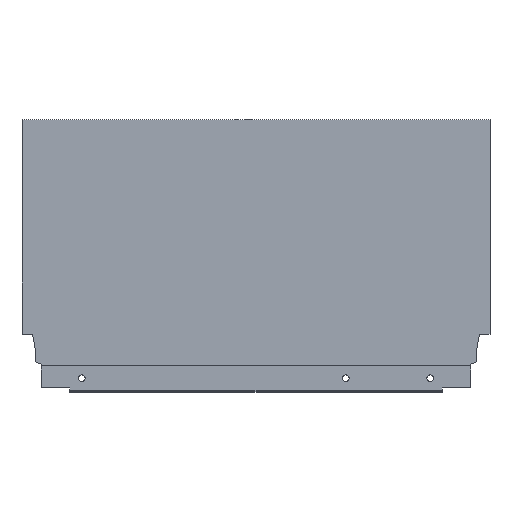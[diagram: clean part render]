
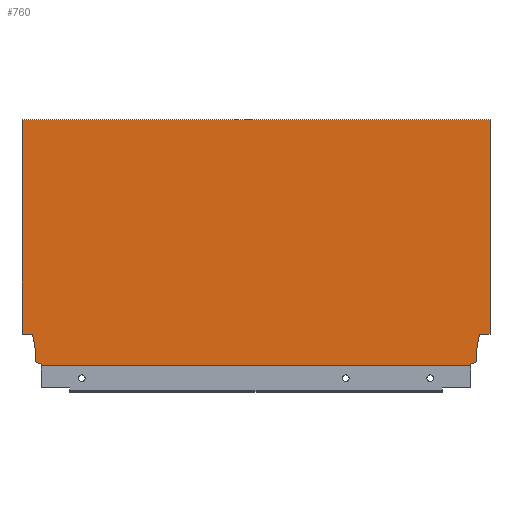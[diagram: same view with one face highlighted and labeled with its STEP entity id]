
A CAD part, top view. The second image highlights one B-rep face of the part: STEP entity #760.
In plain terms, the highlighted planar face has unit normal (0, 0, 1).
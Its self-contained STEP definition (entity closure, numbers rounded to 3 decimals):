
#2 = EDGE_CURVE ( 'NONE', #585, #961, #1470, .T. ) ;
#4 = EDGE_CURVE ( 'NONE', #934, #967, #467, .T. ) ;
#5 = EDGE_CURVE ( 'NONE', #942, #930, #1472, .T. ) ;
#100 = EDGE_CURVE ( 'NONE', #967, #952, #1218, .T. ) ;
#102 = EDGE_CURVE ( 'NONE', #938, #922, #1222, .T. ) ;
#107 = EDGE_CURVE ( 'NONE', #930, #934, #1207, .T. ) ;
#109 = EDGE_CURVE ( 'NONE', #922, #986, #1234, .T. ) ;
#111 = EDGE_CURVE ( 'NONE', #925, #938, #1238, .T. ) ;
#114 = EDGE_CURVE ( 'NONE', #933, #585, #1244, .T. ) ;
#117 = EDGE_CURVE ( 'NONE', #952, #933, #1230, .T. ) ;
#126 = EDGE_CURVE ( 'NONE', #957, #932, #1264, .T. ) ;
#133 = EDGE_CURVE ( 'NONE', #925, #961, #1262, .T. ) ;
#168 = AXIS2_PLACEMENT_3D ( 'NONE', #218, #210, #209 ) ;
#175 = EDGE_CURVE ( 'NONE', #986, #957, #1273, .T. ) ;
#180 = EDGE_CURVE ( 'NONE', #942, #932, #1279, .T. ) ;
#209 = DIRECTION ( 'NONE',  ( 1., 0., 0. ) ) ;
#210 = DIRECTION ( 'NONE',  ( 0., 0., 1. ) ) ;
#218 = CARTESIAN_POINT ( 'NONE',  ( -313., 0., 7.5 ) ) ;
#221 = PLANE ( 'NONE',  #168 ) ;
#425 = ORIENTED_EDGE ( 'NONE', *, *, #107, .F. ) ;
#426 = ORIENTED_EDGE ( 'NONE', *, *, #5, .F. ) ;
#429 = ORIENTED_EDGE ( 'NONE', *, *, #126, .F. ) ;
#431 = ORIENTED_EDGE ( 'NONE', *, *, #114, .F. ) ;
#435 = ORIENTED_EDGE ( 'NONE', *, *, #133, .T. ) ;
#436 = ORIENTED_EDGE ( 'NONE', *, *, #2, .F. ) ;
#450 = ORIENTED_EDGE ( 'NONE', *, *, #109, .F. ) ;
#451 = ORIENTED_EDGE ( 'NONE', *, *, #102, .F. ) ;
#452 = ORIENTED_EDGE ( 'NONE', *, *, #111, .F. ) ;
#460 = VECTOR ( 'NONE', #985, 1000. ) ;
#467 = LINE ( 'NONE', #963, #460 ) ;
#484 = ORIENTED_EDGE ( 'NONE', *, *, #100, .F. ) ;
#486 = ORIENTED_EDGE ( 'NONE', *, *, #4, .F. ) ;
#487 = ORIENTED_EDGE ( 'NONE', *, *, #117, .F. ) ;
#490 = ORIENTED_EDGE ( 'NONE', *, *, #175, .F. ) ;
#494 = ORIENTED_EDGE ( 'NONE', *, *, #180, .T. ) ;
#572 = DIRECTION ( 'NONE',  ( 1., 0., 0. ) ) ;
#574 = CARTESIAN_POINT ( 'NONE',  ( -313., 164.7, 7.5 ) ) ;
#575 = DIRECTION ( 'NONE',  ( 0., -1., 0. ) ) ;
#585 = VERTEX_POINT ( 'NONE', #764 ) ;
#596 = DIRECTION ( 'NONE',  ( -1., 0., 0. ) ) ;
#597 = CARTESIAN_POINT ( 'NONE',  ( -318., 21.2, 7.5 ) ) ;
#605 = DIRECTION ( 'NONE',  ( 1., 0., 0. ) ) ;
#614 = CARTESIAN_POINT ( 'NONE',  ( -313., 0., 7.5 ) ) ;
#623 = CARTESIAN_POINT ( 'NONE',  ( -8.9, 10.765, 7.5 ) ) ;
#628 = CARTESIAN_POINT ( 'NONE',  ( -305.94, 21.2, 7.5 ) ) ;
#632 = CARTESIAN_POINT ( 'NONE',  ( -13.004, 0., 7.5 ) ) ;
#637 = CARTESIAN_POINT ( 'NONE',  ( -7.06, 21.2, 7.5 ) ) ;
#654 = CARTESIAN_POINT ( 'NONE',  ( -304.1, 10.765, 7.5 ) ) ;
#674 = CARTESIAN_POINT ( 'NONE',  ( -304.1, 2.64, 7.5 ) ) ;
#684 = CARTESIAN_POINT ( 'NONE',  ( 0., 164.7, 7.5 ) ) ;
#686 = CARTESIAN_POINT ( 'NONE',  ( -8.9, 2.64, 7.5 ) ) ;
#688 = CARTESIAN_POINT ( 'NONE',  ( 0., 21.2, 7.5 ) ) ;
#689 = CARTESIAN_POINT ( 'NONE',  ( -313., 21.2, 7.5 ) ) ;
#695 = CARTESIAN_POINT ( 'NONE',  ( -299.996, 0., 7.5 ) ) ;
#700 = CARTESIAN_POINT ( 'NONE',  ( -313., 164.7, 7.5 ) ) ;
#705 = CARTESIAN_POINT ( 'NONE',  ( -299.996, 1.146, 7.5 ) ) ;
#760 = ADVANCED_FACE ( 'NONE', ( #1336 ), #221, .T. ) ;
#764 = CARTESIAN_POINT ( 'NONE',  ( -13.004, 1.146, 7.5 ) ) ;
#772 = DIRECTION ( 'NONE',  ( 0., -1., 0. ) ) ;
#773 = CARTESIAN_POINT ( 'NONE',  ( -313., 0., 7.5 ) ) ;
#779 = DIRECTION ( 'NONE',  ( -0.174, 0.985, 0. ) ) ;
#781 = CARTESIAN_POINT ( 'NONE',  ( -305.94, 21.2, 7.5 ) ) ;
#793 = DIRECTION ( 'NONE',  ( 0., 1., 0. ) ) ;
#794 = CARTESIAN_POINT ( 'NONE',  ( -304.1, 10.765, 7.5 ) ) ;
#801 = DIRECTION ( 'NONE',  ( -0.94, -0.342, 0. ) ) ;
#802 = CARTESIAN_POINT ( 'NONE',  ( -8.9, 2.64, 7.5 ) ) ;
#806 = DIRECTION ( 'NONE',  ( 0., -1., 0. ) ) ;
#807 = CARTESIAN_POINT ( 'NONE',  ( 0., 0., 7.5 ) ) ;
#809 = DIRECTION ( 'NONE',  ( 0., 1., 0. ) ) ;
#810 = CARTESIAN_POINT ( 'NONE',  ( -299.996, 1.146, 7.5 ) ) ;
#922 = VERTEX_POINT ( 'NONE', #674 ) ;
#925 = VERTEX_POINT ( 'NONE', #695 ) ;
#930 = VERTEX_POINT ( 'NONE', #684 ) ;
#932 = VERTEX_POINT ( 'NONE', #689 ) ;
#933 = VERTEX_POINT ( 'NONE', #686 ) ;
#934 = VERTEX_POINT ( 'NONE', #688 ) ;
#938 = VERTEX_POINT ( 'NONE', #705 ) ;
#942 = VERTEX_POINT ( 'NONE', #700 ) ;
#952 = VERTEX_POINT ( 'NONE', #623 ) ;
#957 = VERTEX_POINT ( 'NONE', #628 ) ;
#961 = VERTEX_POINT ( 'NONE', #632 ) ;
#963 = CARTESIAN_POINT ( 'NONE',  ( 0., 21.2, 7.5 ) ) ;
#967 = VERTEX_POINT ( 'NONE', #637 ) ;
#984 = CARTESIAN_POINT ( 'NONE',  ( -13.004, 1.146, 7.5 ) ) ;
#985 = DIRECTION ( 'NONE',  ( -1., 0., 0. ) ) ;
#986 = VERTEX_POINT ( 'NONE', #654 ) ;
#1207 = LINE ( 'NONE', #807, #1227 ) ;
#1218 = LINE ( 'NONE', #1370, #1219 ) ;
#1219 = VECTOR ( 'NONE', #1369, 1000. ) ;
#1222 = LINE ( 'NONE', #1364, #1223 ) ;
#1223 = VECTOR ( 'NONE', #1363, 1000. ) ;
#1227 = VECTOR ( 'NONE', #806, 1000. ) ;
#1230 = LINE ( 'NONE', #1358, #1250 ) ;
#1234 = LINE ( 'NONE', #794, #1235 ) ;
#1235 = VECTOR ( 'NONE', #793, 1000. ) ;
#1238 = LINE ( 'NONE', #810, #1239 ) ;
#1239 = VECTOR ( 'NONE', #809, 1000. ) ;
#1244 = LINE ( 'NONE', #802, #1245 ) ;
#1245 = VECTOR ( 'NONE', #801, 1000. ) ;
#1250 = VECTOR ( 'NONE', #1351, 1000. ) ;
#1262 = LINE ( 'NONE', #614, #1270 ) ;
#1264 = LINE ( 'NONE', #597, #1265 ) ;
#1265 = VECTOR ( 'NONE', #596, 1000. ) ;
#1270 = VECTOR ( 'NONE', #605, 1000. ) ;
#1273 = LINE ( 'NONE', #781, #1274 ) ;
#1274 = VECTOR ( 'NONE', #779, 1000. ) ;
#1279 = LINE ( 'NONE', #773, #1280 ) ;
#1280 = VECTOR ( 'NONE', #772, 1000. ) ;
#1336 = FACE_OUTER_BOUND ( 'NONE', #1504, .T. ) ;
#1351 = DIRECTION ( 'NONE',  ( 0., -1., 0. ) ) ;
#1358 = CARTESIAN_POINT ( 'NONE',  ( -8.9, 10.765, 7.5 ) ) ;
#1363 = DIRECTION ( 'NONE',  ( -0.94, 0.342, 0. ) ) ;
#1364 = CARTESIAN_POINT ( 'NONE',  ( -304.1, 2.64, 7.5 ) ) ;
#1369 = DIRECTION ( 'NONE',  ( -0.174, -0.985, 0. ) ) ;
#1370 = CARTESIAN_POINT ( 'NONE',  ( -7.06, 21.2, 7.5 ) ) ;
#1468 = VECTOR ( 'NONE', #572, 1000. ) ;
#1469 = VECTOR ( 'NONE', #575, 1000. ) ;
#1470 = LINE ( 'NONE', #984, #1469 ) ;
#1472 = LINE ( 'NONE', #574, #1468 ) ;
#1504 = EDGE_LOOP ( 'NONE', ( #494, #429, #490, #450, #451, #452, #435, #436, #431, #487, #484, #486, #425, #426 ) ) ;
